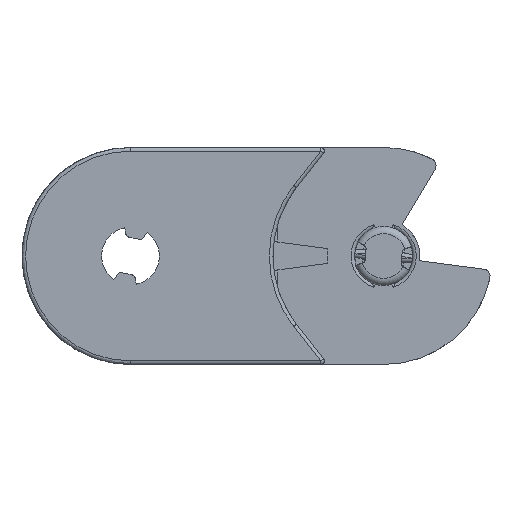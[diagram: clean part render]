
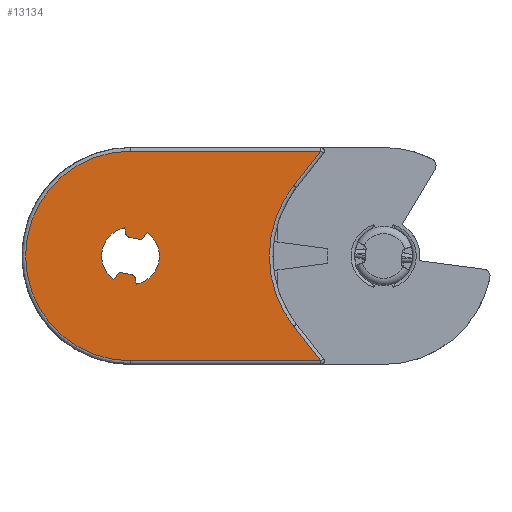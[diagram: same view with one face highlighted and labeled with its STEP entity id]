
A CAD part, left-side view. The second image highlights one B-rep face of the part: STEP entity #13134.
In plain terms, the highlighted free-form (B-spline) face has degree [1, 1] with [2, 2] control points.
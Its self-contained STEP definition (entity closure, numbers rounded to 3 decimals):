
#1115=CARTESIAN_POINT('',(-40.31,-27.591,-72.519));
#1116=VERTEX_POINT('',#1115);
#1123=CARTESIAN_POINT('',(-40.118,-26.668,-72.519));
#1124=VERTEX_POINT('',#1123);
#1125=CARTESIAN_POINT('',(-40.118,-26.668,-72.519));
#1126=DIRECTION('',(-0.204,-0.979,0.0));
#1127=VECTOR('',#1126,0.943);
#1128=LINE('',#1125,#1127);
#1129=EDGE_CURVE('',#1124,#1116,#1128,.T.);
#1154=CARTESIAN_POINT('',(-40.698,-27.979,-72.519));
#1155=VERTEX_POINT('',#1154);
#1162=CARTESIAN_POINT('',(-40.8,-27.489,-72.519));
#1163=DIRECTION('',(0.,0.,-1.0));
#1164=DIRECTION('',(0.979,-0.204,0.));
#1165=AXIS2_PLACEMENT_3D('',#1162,#1163,#1164);
#1166=CIRCLE('',#1165,0.5);
#1167=EDGE_CURVE('',#1116,#1155,#1166,.T.);
#1186=CARTESIAN_POINT('',(-42.199,-28.291,-72.519));
#1187=VERTEX_POINT('',#1186);
#1194=CARTESIAN_POINT('',(-40.698,-27.979,-72.519));
#1195=DIRECTION('',(-0.979,-0.204,0.0));
#1196=VECTOR('',#1195,1.533);
#1197=LINE('',#1194,#1196);
#1198=EDGE_CURVE('',#1155,#1187,#1197,.T.);
#1218=CARTESIAN_POINT('',(-42.709,-28.09,-72.519));
#1219=VERTEX_POINT('',#1218);
#1226=CARTESIAN_POINT('',(-42.301,-27.802,-72.519));
#1227=DIRECTION('',(0.,0.,-1.0));
#1228=DIRECTION('',(0.204,-0.979,0.));
#1229=AXIS2_PLACEMENT_3D('',#1226,#1227,#1228);
#1230=CIRCLE('',#1229,0.5);
#1231=EDGE_CURVE('',#1187,#1219,#1230,.T.);
#1250=CARTESIAN_POINT('',(-43.253,-27.32,-72.519));
#1251=VERTEX_POINT('',#1250);
#1258=CARTESIAN_POINT('',(-42.709,-28.09,-72.519));
#1259=DIRECTION('',(-0.577,0.817,0.0));
#1260=VECTOR('',#1259,0.943);
#1261=LINE('',#1258,#1260);
#1262=EDGE_CURVE('',#1219,#1251,#1261,.T.);
#1283=CARTESIAN_POINT('',(-41.568,-33.574,-72.519));
#1284=VERTEX_POINT('',#1283);
#1291=CARTESIAN_POINT('',(-41.76,-34.497,-72.519));
#1292=VERTEX_POINT('',#1291);
#1293=CARTESIAN_POINT('',(-41.76,-34.497,-72.519));
#1294=DIRECTION('',(0.204,0.979,0.0));
#1295=VECTOR('',#1294,0.943);
#1296=LINE('',#1293,#1295);
#1297=EDGE_CURVE('',#1292,#1284,#1296,.T.);
#1322=CARTESIAN_POINT('',(-41.181,-33.186,-72.519));
#1323=VERTEX_POINT('',#1322);
#1330=CARTESIAN_POINT('',(-41.079,-33.676,-72.519));
#1331=DIRECTION('',(0.,0.,-1.0));
#1332=DIRECTION('',(-0.979,0.204,0.));
#1333=AXIS2_PLACEMENT_3D('',#1330,#1331,#1332);
#1334=CIRCLE('',#1333,0.5);
#1335=EDGE_CURVE('',#1284,#1323,#1334,.T.);
#1354=CARTESIAN_POINT('',(-39.679,-32.874,-72.519));
#1355=VERTEX_POINT('',#1354);
#1362=CARTESIAN_POINT('',(-41.181,-33.186,-72.519));
#1363=DIRECTION('',(0.979,0.204,0.0));
#1364=VECTOR('',#1363,1.533);
#1365=LINE('',#1362,#1364);
#1366=EDGE_CURVE('',#1323,#1355,#1365,.T.);
#1386=CARTESIAN_POINT('',(-39.169,-33.075,-72.519));
#1387=VERTEX_POINT('',#1386);
#1394=CARTESIAN_POINT('',(-39.578,-33.364,-72.519));
#1395=DIRECTION('',(0.,0.,-1.0));
#1396=DIRECTION('',(-0.204,0.979,0.));
#1397=AXIS2_PLACEMENT_3D('',#1394,#1395,#1396);
#1398=CIRCLE('',#1397,0.5);
#1399=EDGE_CURVE('',#1355,#1387,#1398,.T.);
#1418=CARTESIAN_POINT('',(-38.625,-33.845,-72.519));
#1419=VERTEX_POINT('',#1418);
#1426=CARTESIAN_POINT('',(-39.169,-33.075,-72.519));
#1427=DIRECTION('',(0.577,-0.817,0.0));
#1428=VECTOR('',#1427,0.943);
#1429=LINE('',#1426,#1428);
#1430=EDGE_CURVE('',#1387,#1419,#1429,.T.);
#1450=CARTESIAN_POINT('',(-40.939,-30.583,-72.519));
#1451=DIRECTION('',(0.0,0.0,1.0));
#1452=DIRECTION('',(1.0,0.0,0.0));
#1453=AXIS2_PLACEMENT_3D('',#1450,#1451,#1452);
#1454=CIRCLE('',#1453,4.0);
#1455=EDGE_CURVE('',#1251,#1292,#1454,.T.);
#1466=CARTESIAN_POINT('',(-40.939,-30.583,-72.519));
#1467=DIRECTION('',(0.0,0.0,1.0));
#1468=DIRECTION('',(1.0,0.0,0.0));
#1469=AXIS2_PLACEMENT_3D('',#1466,#1467,#1468);
#1470=CIRCLE('',#1469,4.0);
#1471=EDGE_CURVE('',#1419,#1124,#1470,.T.);
#10920=CARTESIAN_POINT('',(-14.646,-16.083,-72.519));
#10921=VERTEX_POINT('',#10920);
#10975=CARTESIAN_POINT('',(-14.646,-45.083,-72.519));
#10976=VERTEX_POINT('',#10975);
#11020=CARTESIAN_POINT('',(-18.371,-20.831,-72.519));
#11021=VERTEX_POINT('',#11020);
#11029=CARTESIAN_POINT('',(-14.646,-16.083,-72.519));
#11030=DIRECTION('',(-0.617,-0.787,0.0));
#11031=VECTOR('',#11030,6.035);
#11032=LINE('',#11029,#11031);
#11033=EDGE_CURVE('',#10921,#11021,#11032,.T.);
#11069=CARTESIAN_POINT('',(-18.371,-40.334,-72.519));
#11070=VERTEX_POINT('',#11069);
#11078=CARTESIAN_POINT('',(-5.939,-30.583,-72.519));
#11079=DIRECTION('',(0.,0.,1.0));
#11080=DIRECTION('',(-1.,0.,0.));
#11081=AXIS2_PLACEMENT_3D('',#11078,#11079,#11080);
#11082=CIRCLE('',#11081,15.8);
#11083=EDGE_CURVE('',#11021,#11070,#11082,.T.);
#11116=CARTESIAN_POINT('',(-18.371,-40.334,-72.519));
#11117=DIRECTION('',(0.617,-0.787,0.0));
#11118=VECTOR('',#11117,6.035);
#11119=LINE('',#11116,#11118);
#11120=EDGE_CURVE('',#11070,#10976,#11119,.T.);
#11158=CARTESIAN_POINT('',(-40.939,-16.083,-72.519));
#11159=VERTEX_POINT('',#11158);
#11176=CARTESIAN_POINT('',(-40.939,-16.083,-72.519));
#11177=DIRECTION('',(1.0,0.0,0.0));
#11178=VECTOR('',#11177,26.293);
#11179=LINE('',#11176,#11178);
#11180=EDGE_CURVE('',#11159,#10921,#11179,.T.);
#11238=CARTESIAN_POINT('',(-40.939,-45.083,-72.519));
#11239=VERTEX_POINT('',#11238);
#11240=CARTESIAN_POINT('',(-40.939,-30.583,-72.519));
#11241=DIRECTION('',(0.0,0.0,-1.0));
#11242=DIRECTION('',(-1.0,0.0,0.0));
#11243=AXIS2_PLACEMENT_3D('',#11240,#11241,#11242);
#11244=CIRCLE('',#11243,14.5);
#11245=EDGE_CURVE('',#11239,#11159,#11244,.T.);
#11301=CARTESIAN_POINT('',(-14.646,-45.083,-72.519));
#11302=DIRECTION('',(-1.0,0.0,0.0));
#11303=VECTOR('',#11302,26.293);
#11304=LINE('',#11301,#11303);
#11305=EDGE_CURVE('',#10976,#11239,#11304,.T.);
#13107=CARTESIAN_POINT('',(-55.439,-16.083,-72.519));
#13108=CARTESIAN_POINT('',(-14.646,-16.083,-72.519));
#13109=CARTESIAN_POINT('',(-55.439,-45.083,-72.519));
#13110=CARTESIAN_POINT('',(-14.646,-45.083,-72.519));
#13111=B_SPLINE_SURFACE_WITH_KNOTS('',1,1,((#13107,#13109),(#13108,#13110)),.UNSPECIFIED.,.F.,.F.,.U.,(2,2),(2,2),(0.0,40.793),(0.0,29.),.UNSPECIFIED.);
#13112=ORIENTED_EDGE('',*,*,#11305,.T.);
#13113=ORIENTED_EDGE('',*,*,#11245,.T.);
#13114=ORIENTED_EDGE('',*,*,#11180,.T.);
#13115=ORIENTED_EDGE('',*,*,#11033,.T.);
#13116=ORIENTED_EDGE('',*,*,#11083,.T.);
#13117=ORIENTED_EDGE('',*,*,#11120,.T.);
#13118=EDGE_LOOP('',(#13112,#13113,#13114,#13115,#13116,#13117));
#13119=FACE_OUTER_BOUND('',#13118,.T.);
#13120=ORIENTED_EDGE('',*,*,#1455,.T.);
#13121=ORIENTED_EDGE('',*,*,#1297,.T.);
#13122=ORIENTED_EDGE('',*,*,#1335,.T.);
#13123=ORIENTED_EDGE('',*,*,#1366,.T.);
#13124=ORIENTED_EDGE('',*,*,#1399,.T.);
#13125=ORIENTED_EDGE('',*,*,#1430,.T.);
#13126=ORIENTED_EDGE('',*,*,#1471,.T.);
#13127=ORIENTED_EDGE('',*,*,#1129,.T.);
#13128=ORIENTED_EDGE('',*,*,#1167,.T.);
#13129=ORIENTED_EDGE('',*,*,#1198,.T.);
#13130=ORIENTED_EDGE('',*,*,#1231,.T.);
#13131=ORIENTED_EDGE('',*,*,#1262,.T.);
#13132=EDGE_LOOP('',(#13120,#13121,#13122,#13123,#13124,#13125,#13126,#13127,#13128,#13129,#13130,#13131));
#13133=FACE_BOUND('',#13132,.T.);
#13134=ADVANCED_FACE('',(#13119,#13133),#13111,.T.);
